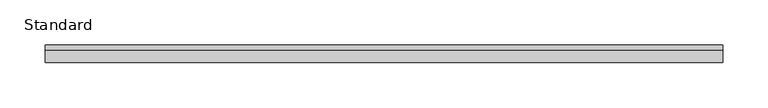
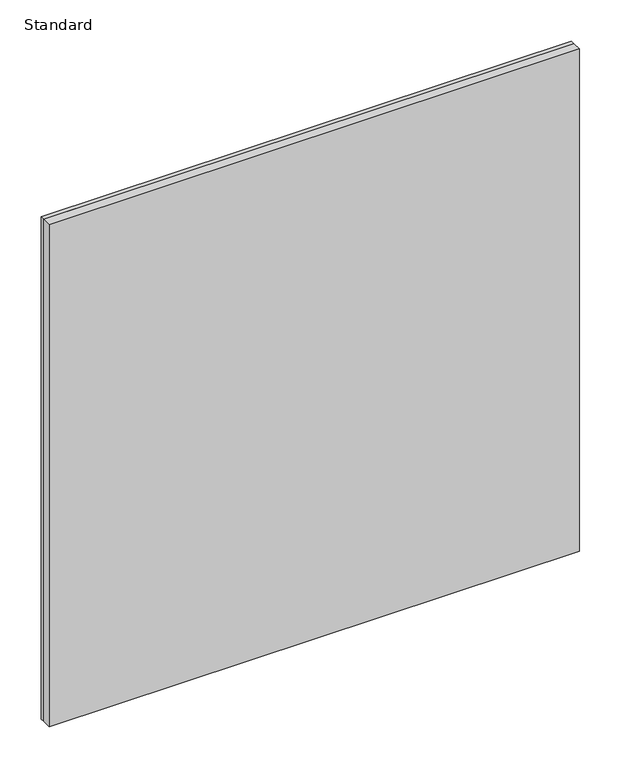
"""IFC4 building model written with IfcOpenShell, lengths in millimetres: furniture geometry, X_Partition-Compact Laminate-Duracube-Cabinet Door : Standard."""

from ifc_helpers import new_model, si_unit, frame, origin, place, context, project, spatial, polyline, outline, extrude, source, transform, mapped, element, save


def standard_1b8acc66(model_context):
    return source(origin(), model_context, "Body", "SweptSolid", [
        extrude(outline(polyline([(416.7003264, 13.0), (416.7003264, 0.0), (-327.2996736, 0.0), (-327.2996736, 13.0), (416.7003264, 13.0)])), frame((0.0, 0.0, 3.0), z_axis=(0.0, 0.0, 1.0), x_axis=(1.0, 0.0, 0.0)), (0.0, 0.0, 1.0), 744.0),
        extrude(outline(polyline([(416.7003264, 19.0), (416.7003264, 13.0), (-327.2996736, 13.0), (-327.2996736, 19.0), (416.7003264, 19.0)])), frame((0.0, 0.0, 3.0), z_axis=(0.0, 0.0, 1.0), x_axis=(1.0, 0.0, 0.0)), (0.0, 0.0, 1.0), 744.0),
    ])


if __name__ == "__main__":
    model = new_model("IFC4")
    model_context = context("Model", 3, world=origin())
    ifc_project = project(units=[si_unit("LENGTHUNIT", "METRE", prefix="MILLI")], contexts=[model_context])
    site = spatial("IfcSite", under=ifc_project)
    building = spatial("IfcBuilding", under=site)
    placement = place(None, origin())
    standard_shape = standard_1b8acc66(model_context)
    element("IfcFurniture", 1, ObjectType="X_Partition-Compact Laminate-Duracube-Cabinet Door : Standard", at=placement, inside=building, context=model_context, shape_type="MappedRepresentation", body=[
        mapped(standard_shape, transform((0.0, 0.0, 0.0), x_axis=(1.0, 0.0, 0.0), y_axis=(0.0, 1.0, 0.0), z_axis=(0.0, 0.0, 1.0))),
    ])
    save(model, "model.ifc")
